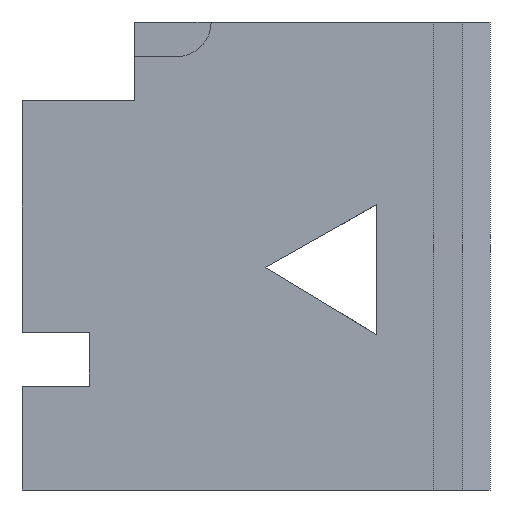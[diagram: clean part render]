
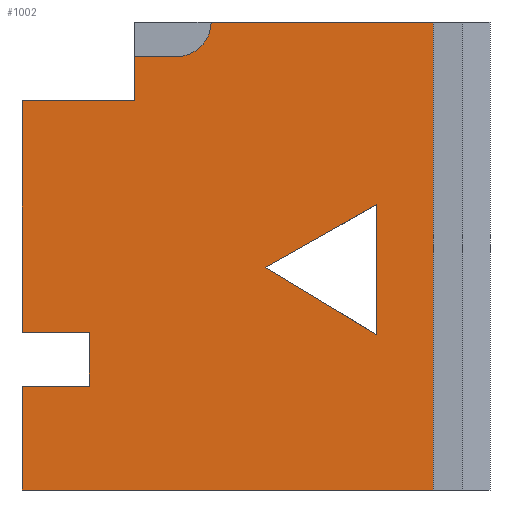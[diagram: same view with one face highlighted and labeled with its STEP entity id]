
A CAD part, left-side view. The second image highlights one B-rep face of the part: STEP entity #1002.
In plain terms, the highlighted planar face has unit normal (-1, 0, 0).
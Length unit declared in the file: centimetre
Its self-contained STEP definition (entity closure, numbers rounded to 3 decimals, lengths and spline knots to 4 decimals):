
#7 = EDGE_CURVE ( 'NONE', #507, #365, #162, .T. ) ;
#16 = CIRCLE ( 'NONE', #934, 73.9404 ) ;
#23 = LINE ( 'NONE', #596, #346 ) ;
#26 = VERTEX_POINT ( 'NONE', #77 ) ;
#30 = DIRECTION ( 'NONE',  ( 0., -1., 0. ) ) ;
#41 = EDGE_CURVE ( 'NONE', #118, #559, #877, .T. ) ;
#47 = CARTESIAN_POINT ( 'NONE',  ( 0., 480.1723, 475.4945 ) ) ;
#68 = CARTESIAN_POINT ( 'NONE',  ( 0., 855.9192, 337.0481 ) ) ;
#71 = VERTEX_POINT ( 'NONE', #336 ) ;
#73 = VECTOR ( 'NONE', #773, 100. ) ;
#77 = CARTESIAN_POINT ( 'NONE',  ( 0., 241.9989, 331.7645 ) ) ;
#80 = EDGE_CURVE ( 'NONE', #26, #326, #643, .T. ) ;
#94 = ORIENTED_EDGE ( 'NONE', *, *, #286, .F. ) ;
#114 = AXIS2_PLACEMENT_3D ( 'NONE', #126, #673, #370 ) ;
#118 = VERTEX_POINT ( 'NONE', #748 ) ;
#120 = DIRECTION ( 'NONE',  ( 0., -1., 0. ) ) ;
#121 = EDGE_CURVE ( 'NONE', #669, #26, #23, .T. ) ;
#126 = CARTESIAN_POINT ( 'NONE',  ( 0., 1000., 1000. ) ) ;
#162 = LINE ( 'NONE', #332, #1037 ) ;
#166 = DIRECTION ( 'NONE',  ( 0., -1., 0. ) ) ;
#173 = EDGE_CURVE ( 'NONE', #1027, #71, #675, .T. ) ;
#180 = DIRECTION ( 'NONE',  ( 0., 0., -1. ) ) ;
#184 = CARTESIAN_POINT ( 'NONE',  ( 0., 669.8395, 1000. ) ) ;
#193 = CARTESIAN_POINT ( 'NONE',  ( 0., 759.7318, 831.665 ) ) ;
#208 = CARTESIAN_POINT ( 'NONE',  ( 0., 121.2632, 0. ) ) ;
#210 = VERTEX_POINT ( 'NONE', #193 ) ;
#214 = EDGE_CURVE ( 'NONE', #539, #1027, #1008, .T. ) ;
#218 = EDGE_CURVE ( 'NONE', #559, #507, #16, .T. ) ;
#231 = ORIENTED_EDGE ( 'NONE', *, *, #214, .T. ) ;
#240 = ORIENTED_EDGE ( 'NONE', *, *, #80, .F. ) ;
#244 = VECTOR ( 'NONE', #676, 100. ) ;
#248 = LINE ( 'NONE', #68, #452 ) ;
#250 = EDGE_LOOP ( 'NONE', ( #94, #550, #468, #631, #231, #481, #665, #1044, #857, #971, #540, #637 ) ) ;
#256 = CARTESIAN_POINT ( 'NONE',  ( 0., 121.2632, 0. ) ) ;
#283 = CARTESIAN_POINT ( 'NONE',  ( 0., 855.9192, 221.7146 ) ) ;
#286 = EDGE_CURVE ( 'NONE', #210, #118, #833, .T. ) ;
#288 = CARTESIAN_POINT ( 'NONE',  ( 0., 759.7318, 831.665 ) ) ;
#294 = VECTOR ( 'NONE', #120, 100. ) ;
#326 = VERTEX_POINT ( 'NONE', #513 ) ;
#332 = CARTESIAN_POINT ( 'NONE',  ( 0., 1000., 1000. ) ) ;
#336 = CARTESIAN_POINT ( 'NONE',  ( 0., 1000., 221.7146 ) ) ;
#346 = VECTOR ( 'NONE', #991, 100. ) ;
#365 = VERTEX_POINT ( 'NONE', #897 ) ;
#370 = DIRECTION ( 'NONE',  ( 0., 0., -1. ) ) ;
#371 = DIRECTION ( 'NONE',  ( 0., 0., -1. ) ) ;
#394 = EDGE_LOOP ( 'NONE', ( #240, #1060, #933 ) ) ;
#426 = EDGE_CURVE ( 'NONE', #1013, #539, #248, .T. ) ;
#430 = CARTESIAN_POINT ( 'NONE',  ( 0., 241.9989, 609.8937 ) ) ;
#446 = LINE ( 'NONE', #589, #1032 ) ;
#447 = DIRECTION ( 'NONE',  ( 0., 0., 1. ) ) ;
#449 = VECTOR ( 'NONE', #30, 100. ) ;
#452 = VECTOR ( 'NONE', #803, 100. ) ;
#468 = ORIENTED_EDGE ( 'NONE', *, *, #1005, .T. ) ;
#481 = ORIENTED_EDGE ( 'NONE', *, *, #173, .T. ) ;
#491 = CARTESIAN_POINT ( 'NONE',  ( 0., 669.8395, 926.0596 ) ) ;
#495 = CARTESIAN_POINT ( 'NONE',  ( 0., 241.9989, 331.7645 ) ) ;
#507 = VERTEX_POINT ( 'NONE', #757 ) ;
#508 = CARTESIAN_POINT ( 'NONE',  ( 0., 1000., 337.0481 ) ) ;
#511 = CARTESIAN_POINT ( 'NONE',  ( 0., 1000., 0. ) ) ;
#512 = DIRECTION ( 'NONE',  ( 0., 1., 0. ) ) ;
#513 = CARTESIAN_POINT ( 'NONE',  ( 0., 241.9989, 609.8937 ) ) ;
#514 = FACE_OUTER_BOUND ( 'NONE', #250, .T. ) ;
#531 = VECTOR ( 'NONE', #512, 100. ) ;
#539 = VERTEX_POINT ( 'NONE', #682 ) ;
#540 = ORIENTED_EDGE ( 'NONE', *, *, #218, .F. ) ;
#546 = LINE ( 'NONE', #551, #1062 ) ;
#547 = EDGE_CURVE ( 'NONE', #719, #1041, #1001, .T. ) ;
#550 = ORIENTED_EDGE ( 'NONE', *, *, #910, .F. ) ;
#551 = CARTESIAN_POINT ( 'NONE',  ( 0., 1000., 1000. ) ) ;
#559 = VERTEX_POINT ( 'NONE', #834 ) ;
#571 = EDGE_CURVE ( 'NONE', #326, #669, #911, .T. ) ;
#577 = LINE ( 'NONE', #594, #294 ) ;
#589 = CARTESIAN_POINT ( 'NONE',  ( 0., 1000., 1000. ) ) ;
#594 = CARTESIAN_POINT ( 'NONE',  ( 0., 759.7318, 831.665 ) ) ;
#596 = CARTESIAN_POINT ( 'NONE',  ( 0., 480.1723, 475.4945 ) ) ;
#631 = ORIENTED_EDGE ( 'NONE', *, *, #426, .T. ) ;
#637 = ORIENTED_EDGE ( 'NONE', *, *, #41, .F. ) ;
#643 = LINE ( 'NONE', #495, #712 ) ;
#665 = ORIENTED_EDGE ( 'NONE', *, *, #762, .T. ) ;
#669 = VERTEX_POINT ( 'NONE', #47 ) ;
#671 = CARTESIAN_POINT ( 'NONE',  ( 0., 855.9192, 221.7146 ) ) ;
#673 = DIRECTION ( 'NONE',  ( 1., 0., 0. ) ) ;
#675 = LINE ( 'NONE', #671, #531 ) ;
#676 = DIRECTION ( 'NONE',  ( 0., 0., -1. ) ) ;
#682 = CARTESIAN_POINT ( 'NONE',  ( 0., 855.9192, 337.0481 ) ) ;
#686 = FACE_BOUND ( 'NONE', #394, .T. ) ;
#695 = VERTEX_POINT ( 'NONE', #706 ) ;
#706 = CARTESIAN_POINT ( 'NONE',  ( 0., 1000., 831.665 ) ) ;
#712 = VECTOR ( 'NONE', #960, 100. ) ;
#719 = VERTEX_POINT ( 'NONE', #944 ) ;
#724 = DIRECTION ( 'NONE',  ( 0., -1., 0. ) ) ;
#741 = EDGE_CURVE ( 'NONE', #365, #1041, #941, .T. ) ;
#748 = CARTESIAN_POINT ( 'NONE',  ( 0., 759.7318, 926.0596 ) ) ;
#757 = CARTESIAN_POINT ( 'NONE',  ( 0., 595.899, 1000. ) ) ;
#761 = CARTESIAN_POINT ( 'NONE',  ( 0., 855.9192, 221.7146 ) ) ;
#762 = EDGE_CURVE ( 'NONE', #71, #719, #546, .T. ) ;
#773 = DIRECTION ( 'NONE',  ( 0., 0., -1. ) ) ;
#803 = DIRECTION ( 'NONE',  ( 0., -1., 0. ) ) ;
#821 = DIRECTION ( 'NONE',  ( 0., 0.871, -0.491 ) ) ;
#833 = LINE ( 'NONE', #288, #1017 ) ;
#834 = CARTESIAN_POINT ( 'NONE',  ( 0., 669.8395, 926.0596 ) ) ;
#857 = ORIENTED_EDGE ( 'NONE', *, *, #741, .F. ) ;
#877 = LINE ( 'NONE', #491, #898 ) ;
#897 = CARTESIAN_POINT ( 'NONE',  ( 0., 121.2632, 1000. ) ) ;
#898 = VECTOR ( 'NONE', #724, 100. ) ;
#899 = VECTOR ( 'NONE', #821, 100. ) ;
#910 = EDGE_CURVE ( 'NONE', #695, #210, #577, .T. ) ;
#911 = LINE ( 'NONE', #430, #899 ) ;
#933 = ORIENTED_EDGE ( 'NONE', *, *, #571, .F. ) ;
#934 = AXIS2_PLACEMENT_3D ( 'NONE', #184, #1000, #371 ) ;
#941 = LINE ( 'NONE', #208, #73 ) ;
#944 = CARTESIAN_POINT ( 'NONE',  ( 0., 1000., 0. ) ) ;
#960 = DIRECTION ( 'NONE',  ( 0., 0., 1. ) ) ;
#971 = ORIENTED_EDGE ( 'NONE', *, *, #7, .F. ) ;
#986 = PLANE ( 'NONE',  #114 ) ;
#991 = DIRECTION ( 'NONE',  ( 0., -0.856, -0.517 ) ) ;
#1000 = DIRECTION ( 'NONE',  ( -1., 0., 0. ) ) ;
#1001 = LINE ( 'NONE', #511, #449 ) ;
#1002 = ADVANCED_FACE ( 'NONE', ( #686, #514 ), #986, .F. ) ;
#1005 = EDGE_CURVE ( 'NONE', #695, #1013, #446, .T. ) ;
#1008 = LINE ( 'NONE', #283, #244 ) ;
#1013 = VERTEX_POINT ( 'NONE', #508 ) ;
#1017 = VECTOR ( 'NONE', #447, 100. ) ;
#1027 = VERTEX_POINT ( 'NONE', #761 ) ;
#1032 = VECTOR ( 'NONE', #180, 100. ) ;
#1037 = VECTOR ( 'NONE', #166, 100. ) ;
#1039 = DIRECTION ( 'NONE',  ( 0., 0., -1. ) ) ;
#1041 = VERTEX_POINT ( 'NONE', #256 ) ;
#1044 = ORIENTED_EDGE ( 'NONE', *, *, #547, .T. ) ;
#1060 = ORIENTED_EDGE ( 'NONE', *, *, #121, .F. ) ;
#1062 = VECTOR ( 'NONE', #1039, 100. ) ;
